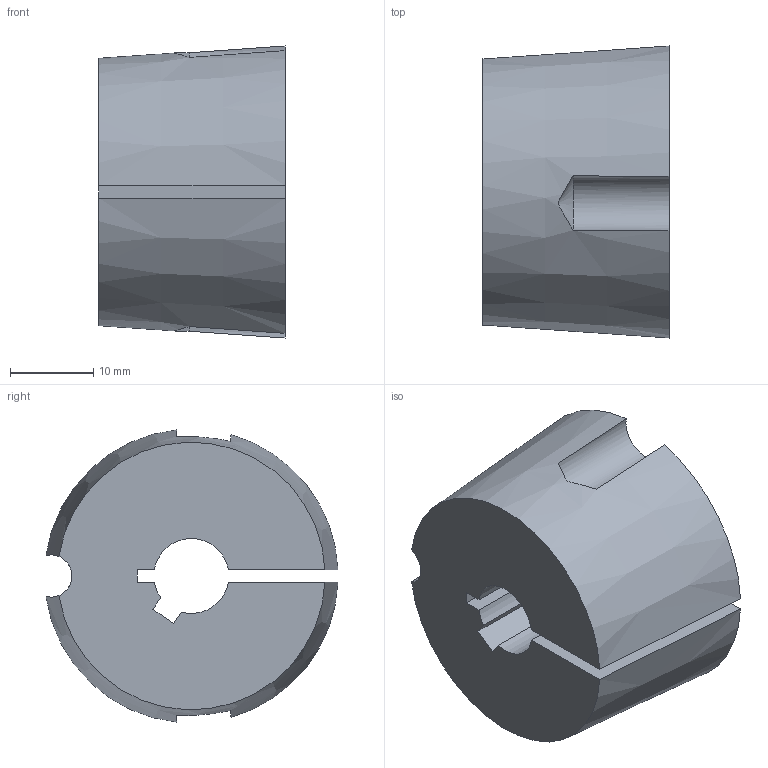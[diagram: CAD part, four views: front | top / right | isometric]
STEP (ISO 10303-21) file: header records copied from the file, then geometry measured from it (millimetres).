
FILE_DESCRIPTION( ( 'STEP AP203' ), '1' );
FILE_NAME( 'D:/export/antriebselemente/spannbuchsen_und_spannsaetze/taper-spannbuchsen_1008_bis_5050/taper-spannbuchsen_62250109Isometric_1.stp', '2018-12-11T11:10:55', ( '' ), ( '' ), ' ', 'PARTsolutions', ' ' );
FILE_SCHEMA( ( 'CONFIG_CONTROL_DESIGN' ) );
Length unit declared in the file: millimetre
Products named in the file (1): _taper-spannbuchsen_62250109
Bounding box: 22.3 x 35.01 x 35.02 mm (x, y, z)
Volume: 17184 mm3; surface area: 5345.1 mm2
Topology: 1 solids, 1 shells, 20 faces, 54 edges, 36 vertices
Faces by surface type: plane 10, cylinder 6, cone 4
Entity records: 736 total; most frequent: CARTESIAN_POINT 187, ORIENTED_EDGE 108, DIRECTION 104, EDGE_CURVE 54, AXIS2_PLACEMENT_3D 39, VERTEX_POINT 36, LINE 26, VECTOR 26
